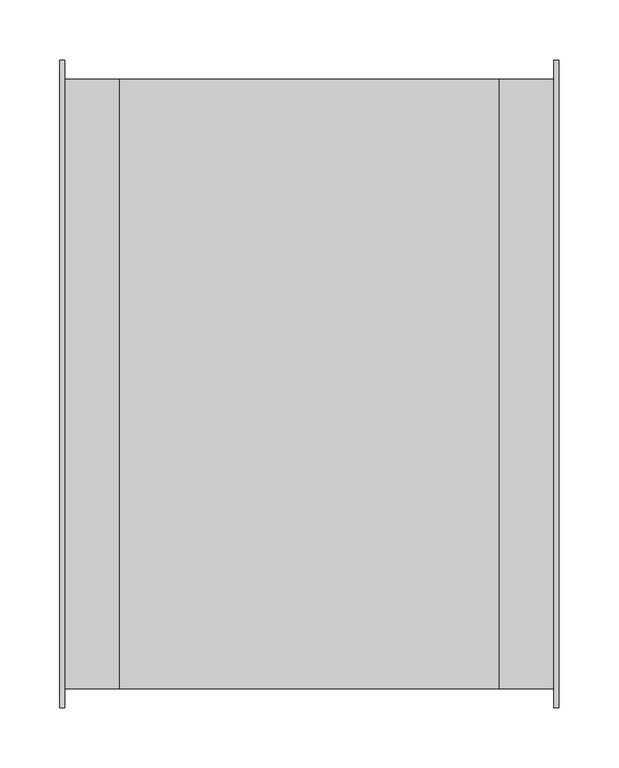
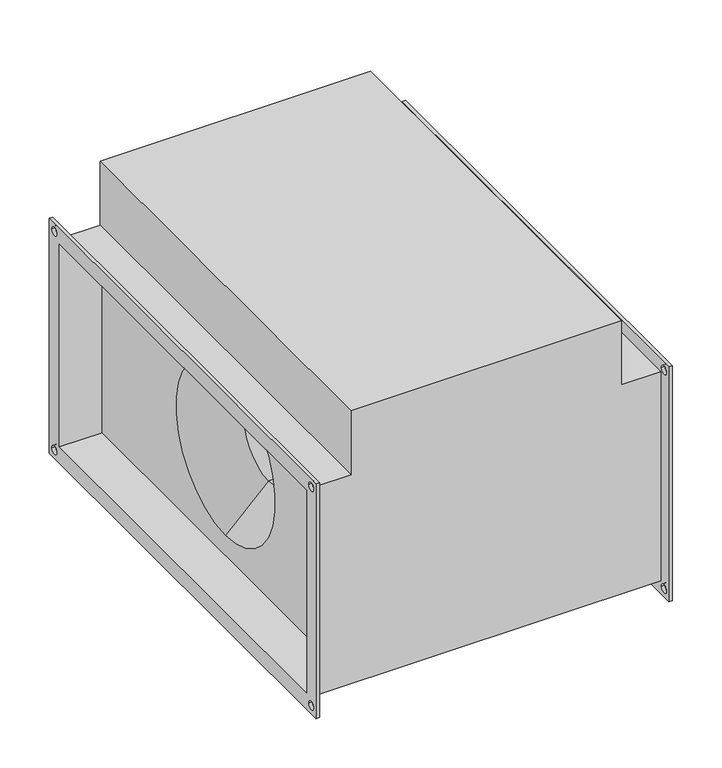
"""IFC4 building model written with IfcOpenShell, lengths in millimetres: proxy geometry, СВ_Вентилятор_КанальныйПрямоугольный_200-1000_SVPS : SVPS-500x250/20.2D."""

from ifc_helpers import new_model, si_unit, frame, origin, place, context, project, spatial, polyline, circle_curve, source, transform, mapped, element, save
from ifc_brep_helpers import plane_surface, revolved_surface, advanced_brep


def mechanical_equipment_00d14a69(model_context):
    return source(origin(), model_context, "Body", "AdvancedBrep", [
        advanced_brep(
        [(-204.0, -254.0, 129.0), (-158.0, -254.0, 129.0), (-158.0, 254.0, 129.0), (-204.0, 254.0, 129.0), (158.0, 254.0, 208.0), (158.0, -254.0, 208.0), (158.0, -254.0, 129.0), (158.0, 254.0, 129.0), (158.0, 250.0, -125.0), (158.0, 250.0, 125.0), (158.0, -250.0, 125.0), (158.0, -250.0, -125.0), (158.0, 0.0, 100.0), (158.0, 0.0, -100.0), (-158.0, 250.0, 125.0), (-158.0, 250.0, -125.0), (-158.0, -250.0, -125.0), (-158.0, -250.0, 125.0), (-158.0, 0.0, -100.0), (-158.0, 0.0, 100.0), (-158.0, -254.0, 208.0), (-158.0, 254.0, 208.0), (-204.0, -254.0, -129.0), (204.0, -254.0, -129.0), (204.0, -254.0, 129.0), (-204.0, 254.0, -129.0), (204.0, 254.0, -129.0), (204.0, 254.0, 129.0), (108.0, 0.0, -50.0), (108.0, 0.0, 50.0), (-108.0, 0.0, 50.0), (-108.0, 0.0, -50.0), (-208.0, -270.0, 145.0), (-208.0, 270.0, 145.0), (-208.0, 270.0, -145.0), (-208.0, -270.0, -145.0), (-208.0, -250.0, 125.0), (-208.0, -250.0, -125.0), (-208.0, 250.0, -125.0), (-208.0, 250.0, 125.0), (-208.0, 255.0, 135.0), (-208.0, 265.0, 135.0), (-208.0, -265.0, 135.0), (-208.0, -255.0, 135.0), (-208.0, -265.0, -135.0), (-208.0, -255.0, -135.0), (-208.0, 255.0, -135.0), (-208.0, 265.0, -135.0), (-204.0, -270.0, 145.0), (-204.0, -270.0, -145.0), (-204.0, 270.0, -145.0), (-204.0, 270.0, 145.0), (-204.0, 265.0, 135.0), (-204.0, 255.0, 135.0), (-204.0, -255.0, 135.0), (-204.0, -265.0, 135.0), (-204.0, -255.0, -135.0), (-204.0, -265.0, -135.0), (-204.0, 265.0, -135.0), (-204.0, 255.0, -135.0), (204.0, 270.0, 145.0), (204.0, 270.0, -145.0), (204.0, -270.0, -145.0), (204.0, -270.0, 145.0), (204.0, 255.0, 135.0), (204.0, 265.0, 135.0), (204.0, -265.0, 135.0), (204.0, -255.0, 135.0), (204.0, -265.0, -135.0), (204.0, -255.0, -135.0), (204.0, 255.0, -135.0), (204.0, 265.0, -135.0), (208.0, 270.0, 145.0), (208.0, -270.0, 145.0), (208.0, -270.0, -145.0), (208.0, 270.0, -145.0), (208.0, 250.0, 125.0), (208.0, 250.0, -125.0), (208.0, -250.0, -125.0), (208.0, -250.0, 125.0), (208.0, 265.0, 135.0), (208.0, 255.0, 135.0), (208.0, -255.0, 135.0), (208.0, -265.0, 135.0), (208.0, -255.0, -135.0), (208.0, -265.0, -135.0), (208.0, 265.0, -135.0), (208.0, 255.0, -135.0)],
        [
            (0, 1),
            (1, 2),
            (2, 3),
            (3, 0),
            (4, 5),
            (5, 6),
            (6, 7),
            (7, 4),
            (8, 9),
            (9, 10),
            (10, 11),
            (11, 8),
            (12, 13, circle_curve(frame((158.0, 0.0, 0.0), z_axis=(-1.0, 0.0, 0.0), x_axis=(0.0, 0.0, 1.0)), 100.0)),
            (13, 12, circle_curve(frame((158.0, 0.0, 0.0), z_axis=(-1.0, 0.0, 0.0), x_axis=(0.0, 0.0, 1.0)), 100.0)),
            (14, 15),
            (15, 16),
            (16, 17),
            (17, 14),
            (18, 19, circle_curve(frame((-158.0, 0.0, 0.0), z_axis=(1.0, 0.0, 0.0), x_axis=(0.0, 0.0, 1.0)), 100.0)),
            (19, 18, circle_curve(frame((-158.0, 0.0, 0.0), z_axis=(1.0, 0.0, 0.0), x_axis=(0.0, 0.0, 1.0)), 100.0)),
            (20, 21),
            (21, 2),
            (1, 20),
            (5, 20),
            (0, 22),
            (22, 23),
            (23, 24),
            (24, 6),
            (22, 25),
            (25, 26),
            (26, 23),
            (21, 4),
            (7, 27),
            (27, 26),
            (25, 3),
            (24, 27),
            (28, 13),
            (12, 29),
            (29, 28, circle_curve(frame((108.0, 0.0, 0.0), z_axis=(-1.0, 0.0, 0.0), x_axis=(0.0, 0.0, 1.0)), 50.0)),
            (28, 29, circle_curve(frame((108.0, 0.0, 0.0), z_axis=(-1.0, 0.0, 0.0), x_axis=(0.0, 0.0, 1.0)), 50.0)),
            (29, 30),
            (30, 31, circle_curve(frame((-108.0, 0.0, 0.0), z_axis=(-1.0, 0.0, 0.0), x_axis=(0.0, 0.0, 1.0)), 50.0)),
            (31, 28),
            (31, 30, circle_curve(frame((-108.0, 0.0, 0.0), z_axis=(-1.0, 0.0, 0.0), x_axis=(0.0, 0.0, 1.0)), 50.0)),
            (30, 19),
            (18, 31),
            (32, 33),
            (33, 34),
            (34, 35),
            (35, 32),
            (36, 37),
            (37, 38),
            (38, 39),
            (39, 36),
            (40, 41, circle_curve(frame((-208.0, 260.0, 135.0), z_axis=(1.0, 0.0, 0.0), x_axis=(0.0, 1.0, 0.0)), 5.0)),
            (41, 40, circle_curve(frame((-208.0, 260.0, 135.0), z_axis=(1.0, 0.0, 0.0), x_axis=(0.0, 1.0, 0.0)), 5.0)),
            (42, 43, circle_curve(frame((-208.0, -260.0, 135.0), z_axis=(1.0, 0.0, 0.0), x_axis=(0.0, 1.0, 0.0)), 5.0)),
            (43, 42, circle_curve(frame((-208.0, -260.0, 135.0), z_axis=(1.0, 0.0, 0.0), x_axis=(0.0, 1.0, 0.0)), 5.0)),
            (44, 45, circle_curve(frame((-208.0, -260.0, -135.0), z_axis=(1.0, 0.0, 0.0), x_axis=(0.0, 1.0, 0.0)), 5.0)),
            (45, 44, circle_curve(frame((-208.0, -260.0, -135.0), z_axis=(1.0, 0.0, 0.0), x_axis=(0.0, 1.0, 0.0)), 5.0)),
            (46, 47, circle_curve(frame((-208.0, 260.0, -135.0), z_axis=(1.0, 0.0, 0.0), x_axis=(0.0, 1.0, 0.0)), 5.0)),
            (47, 46, circle_curve(frame((-208.0, 260.0, -135.0), z_axis=(1.0, 0.0, 0.0), x_axis=(0.0, 1.0, 0.0)), 5.0)),
            (48, 49),
            (49, 50),
            (50, 51),
            (51, 48),
            (52, 53, circle_curve(frame((-204.0, 260.0, 135.0), z_axis=(-1.0, 0.0, 0.0), x_axis=(0.0, 1.0, 0.0)), 5.0)),
            (53, 52, circle_curve(frame((-204.0, 260.0, 135.0), z_axis=(-1.0, 0.0, 0.0), x_axis=(0.0, 1.0, 0.0)), 5.0)),
            (54, 55, circle_curve(frame((-204.0, -260.0, 135.0), z_axis=(-1.0, 0.0, 0.0), x_axis=(0.0, 1.0, 0.0)), 5.0)),
            (55, 54, circle_curve(frame((-204.0, -260.0, 135.0), z_axis=(-1.0, 0.0, 0.0), x_axis=(0.0, 1.0, 0.0)), 5.0)),
            (56, 57, circle_curve(frame((-204.0, -260.0, -135.0), z_axis=(-1.0, 0.0, 0.0), x_axis=(0.0, 1.0, 0.0)), 5.0)),
            (57, 56, circle_curve(frame((-204.0, -260.0, -135.0), z_axis=(-1.0, 0.0, 0.0), x_axis=(0.0, 1.0, 0.0)), 5.0)),
            (58, 59, circle_curve(frame((-204.0, 260.0, -135.0), z_axis=(-1.0, 0.0, 0.0), x_axis=(0.0, 1.0, 0.0)), 5.0)),
            (59, 58, circle_curve(frame((-204.0, 260.0, -135.0), z_axis=(-1.0, 0.0, 0.0), x_axis=(0.0, 1.0, 0.0)), 5.0)),
            (35, 49),
            (48, 32),
            (34, 50),
            (33, 51),
            (60, 61),
            (61, 62),
            (62, 63),
            (63, 60),
            (64, 65, circle_curve(frame((204.0, 260.0, 135.0), z_axis=(1.0, 0.0, 0.0), x_axis=(0.0, 1.0, 0.0)), 5.0)),
            (65, 64, circle_curve(frame((204.0, 260.0, 135.0), z_axis=(1.0, 0.0, 0.0), x_axis=(0.0, 1.0, 0.0)), 5.0)),
            (66, 67, circle_curve(frame((204.0, -260.0, 135.0), z_axis=(1.0, 0.0, 0.0), x_axis=(0.0, 1.0, 0.0)), 5.0)),
            (67, 66, circle_curve(frame((204.0, -260.0, 135.0), z_axis=(1.0, 0.0, 0.0), x_axis=(0.0, 1.0, 0.0)), 5.0)),
            (68, 69, circle_curve(frame((204.0, -260.0, -135.0), z_axis=(1.0, 0.0, 0.0), x_axis=(0.0, 1.0, 0.0)), 5.0)),
            (69, 68, circle_curve(frame((204.0, -260.0, -135.0), z_axis=(1.0, 0.0, 0.0), x_axis=(0.0, 1.0, 0.0)), 5.0)),
            (70, 71, circle_curve(frame((204.0, 260.0, -135.0), z_axis=(1.0, 0.0, 0.0), x_axis=(0.0, 1.0, 0.0)), 5.0)),
            (71, 70, circle_curve(frame((204.0, 260.0, -135.0), z_axis=(1.0, 0.0, 0.0), x_axis=(0.0, 1.0, 0.0)), 5.0)),
            (72, 73),
            (73, 74),
            (74, 75),
            (75, 72),
            (76, 77),
            (77, 78),
            (78, 79),
            (79, 76),
            (80, 81, circle_curve(frame((208.0, 260.0, 135.0), z_axis=(-1.0, 0.0, 0.0), x_axis=(0.0, 1.0, 0.0)), 5.0)),
            (81, 80, circle_curve(frame((208.0, 260.0, 135.0), z_axis=(-1.0, 0.0, 0.0), x_axis=(0.0, 1.0, 0.0)), 5.0)),
            (82, 83, circle_curve(frame((208.0, -260.0, 135.0), z_axis=(-1.0, 0.0, 0.0), x_axis=(0.0, 1.0, 0.0)), 5.0)),
            (83, 82, circle_curve(frame((208.0, -260.0, 135.0), z_axis=(-1.0, 0.0, 0.0), x_axis=(0.0, 1.0, 0.0)), 5.0)),
            (84, 85, circle_curve(frame((208.0, -260.0, -135.0), z_axis=(-1.0, 0.0, 0.0), x_axis=(0.0, 1.0, 0.0)), 5.0)),
            (85, 84, circle_curve(frame((208.0, -260.0, -135.0), z_axis=(-1.0, 0.0, 0.0), x_axis=(0.0, 1.0, 0.0)), 5.0)),
            (86, 87, circle_curve(frame((208.0, 260.0, -135.0), z_axis=(-1.0, 0.0, 0.0), x_axis=(0.0, 1.0, 0.0)), 5.0)),
            (87, 86, circle_curve(frame((208.0, 260.0, -135.0), z_axis=(-1.0, 0.0, 0.0), x_axis=(0.0, 1.0, 0.0)), 5.0)),
            (63, 73),
            (72, 60),
            (62, 74),
            (61, 75),
            (39, 14),
            (17, 36),
            (38, 15),
            (37, 16),
            (76, 9),
            (8, 77),
            (11, 78),
            (10, 79),
            (40, 53),
            (52, 41),
            (64, 81),
            (80, 65),
            (42, 55),
            (54, 43),
            (66, 83),
            (82, 67),
            (44, 57),
            (56, 45),
            (68, 85),
            (84, 69),
            (46, 59),
            (58, 47),
            (70, 87),
            (86, 71),
        ],
        [
            plane_surface(frame((-158.0, 254.0, 129.0), z_axis=(0.0, 0.0, 1.0), x_axis=(-1.0, 0.0, 0.0))),
            plane_surface(frame((158.0, -254.0, 208.0), z_axis=(1.0, 0.0, 0.0), x_axis=(0.0, 0.0, -1.0))),
            plane_surface(frame((-158.0, -254.0, 208.0), z_axis=(-1.0, 0.0, 0.0), x_axis=(0.0, 0.0, 1.0))),
            plane_surface(frame((158.0, -254.0, 208.0), z_axis=(0.0, -1.0, 0.0), x_axis=(-1.0, 0.0, 0.0))),
            plane_surface(frame((158.0, -254.0, -129.0), z_axis=(0.0, 0.0, -1.0), x_axis=(-1.0, 0.0, 0.0))),
            plane_surface(frame((158.0, 254.0, -129.0), z_axis=(0.0, 1.0, 0.0), x_axis=(-1.0, 0.0, 0.0))),
            plane_surface(frame((158.0, 254.0, 208.0), z_axis=(0.0, 0.0, 1.0), x_axis=(-1.0, 0.0, 0.0))),
            plane_surface(frame((204.0, 254.0, 129.0), z_axis=(0.0, 0.0, 1.0), x_axis=(-1.0, 0.0, 0.0))),
            revolved_surface(polyline([(108.0, 0.0, 50.0), (158.0, 0.0, 100.0)]), (-595.0617897, 0.0, 0.0), (-1.0, 0.0, 0.0)),
            revolved_surface(polyline([(-108.0, 0.0, 50.0), (108.0, 0.0, 50.0)]), (-595.0617897, 0.0, 0.0), (-1.0, 0.0, 0.0)),
            revolved_surface(polyline([(-158.0, 0.0, 100.0), (-108.0, 0.0, 50.0)]), (-595.0617897, 0.0, 0.0), (-1.0, 0.0, 0.0)),
            plane_surface(frame((-208.0, -270.0, 145.0), z_axis=(-1.0, 0.0, 0.0), x_axis=(0.0, 0.0, 1.0))),
            plane_surface(frame((-204.0, -270.0, 145.0), z_axis=(1.0, 0.0, 0.0), x_axis=(0.0, 0.0, -1.0))),
            plane_surface(frame((-204.0, -270.0, 145.0), z_axis=(0.0, -1.0, 0.0), x_axis=(-1.0, 0.0, 0.0))),
            plane_surface(frame((-204.0, -270.0, -145.0), z_axis=(0.0, 0.0, -1.0), x_axis=(-1.0, 0.0, 0.0))),
            plane_surface(frame((-204.0, 270.0, -145.0), z_axis=(0.0, 1.0, 0.0), x_axis=(-1.0, 0.0, 0.0))),
            plane_surface(frame((-204.0, 270.0, 145.0), z_axis=(0.0, 0.0, 1.0), x_axis=(-1.0, 0.0, 0.0))),
            plane_surface(frame((204.0, 250.0, -125.0), z_axis=(-1.0, 0.0, 0.0), x_axis=(0.0, 0.0, 1.0))),
            plane_surface(frame((208.0, 250.0, -125.0), z_axis=(1.0, 0.0, 0.0), x_axis=(0.0, 0.0, -1.0))),
            plane_surface(frame((208.0, 270.0, 145.0), z_axis=(0.0, 0.0, 1.0), x_axis=(-1.0, 0.0, 0.0))),
            plane_surface(frame((208.0, -270.0, 145.0), z_axis=(0.0, -1.0, 0.0), x_axis=(-1.0, 0.0, 0.0))),
            plane_surface(frame((208.0, -270.0, -145.0), z_axis=(0.0, 0.0, -1.0), x_axis=(-1.0, 0.0, 0.0))),
            plane_surface(frame((208.0, 270.0, -145.0), z_axis=(0.0, 1.0, 0.0), x_axis=(-1.0, 0.0, 0.0))),
            plane_surface(frame((-204.0, -250.0, 125.0), z_axis=(0.0, 0.0, -1.0), x_axis=(-1.0, 0.0, 0.0))),
            plane_surface(frame((-204.0, 250.0, 125.0), z_axis=(0.0, -1.0, 0.0), x_axis=(-1.0, 0.0, 0.0))),
            plane_surface(frame((-204.0, 250.0, -125.0), z_axis=(0.0, 0.0, 1.0), x_axis=(-1.0, 0.0, 0.0))),
            plane_surface(frame((-204.0, -250.0, -125.0), z_axis=(0.0, 1.0, 0.0), x_axis=(-1.0, 0.0, 0.0))),
            plane_surface(frame((208.0, 250.0, 125.0), z_axis=(0.0, -1.0, 0.0), x_axis=(-1.0, 0.0, 0.0))),
            plane_surface(frame((208.0, 250.0, -125.0), z_axis=(0.0, 0.0, 1.0), x_axis=(-1.0, 0.0, 0.0))),
            plane_surface(frame((208.0, -250.0, -125.0), z_axis=(0.0, 1.0, 0.0), x_axis=(-1.0, 0.0, 0.0))),
            plane_surface(frame((208.0, -250.0, 125.0), z_axis=(0.0, 0.0, -1.0), x_axis=(-1.0, 0.0, 0.0))),
            revolved_surface(polyline([(-204.0, 265.0, 135.0), (-208.0, 265.0, 135.0)]), (-208.0, 260.0, 135.0), (1.0, 0.0, 0.0)),
            revolved_surface(polyline([(208.0, 265.0, 135.0), (204.0, 265.0, 135.0)]), (-208.0, 260.0, 135.0), (1.0, 0.0, 0.0)),
            revolved_surface(polyline([(-204.0, -255.0, 135.0), (-208.0, -255.0, 135.0)]), (0.0, -260.0, 135.0), (1.0, 0.0, 0.0)),
            revolved_surface(polyline([(208.0, -255.0, 135.0), (204.0, -255.0, 135.0)]), (0.0, -260.0, 135.0), (1.0, 0.0, 0.0)),
            revolved_surface(polyline([(-204.0, -255.0, -135.0), (-208.0, -255.0, -135.0)]), (0.0, -260.0, -135.0), (1.0, 0.0, 0.0)),
            revolved_surface(polyline([(208.0, -255.0, -135.0), (204.0, -255.0, -135.0)]), (0.0, -260.0, -135.0), (1.0, 0.0, 0.0)),
            revolved_surface(polyline([(-204.0, 265.0, -135.0), (-208.0, 265.0, -135.0)]), (0.0, 260.0, -135.0), (1.0, 0.0, 0.0)),
            revolved_surface(polyline([(208.0, 265.0, -135.0), (204.0, 265.0, -135.0)]), (0.0, 260.0, -135.0), (1.0, 0.0, 0.0)),
        ],
        [
            (0, [[1, 2, 3, 4]]),
            (1, [[5, 6, 7, 8]]),
            (1, [[9, 10, 11, 12], [13, 14]]),
            (2, [[15, 16, 17, 18], [19, 20]]),
            (2, [[21, 22, -2, 23]]),
            (3, [[24, -23, -1, 25, 26, 27, 28, -6]]),
            (4, [[-26, 29, 30, 31]]),
            (5, [[32, -8, 33, 34, -30, 35, -3, -22]]),
            (6, [[-5, -32, -21, -24]]),
            (7, [[-28, 36, -33, -7]]),
            (8, [[37, -13, 38, 39]]),
            (8, [[-37, 40, -38, -14]]),
            (9, [[-39, 41, 42, 43]]),
            (9, [[-40, -43, 44, -41]]),
            (10, [[-42, 45, -19, 46]]),
            (10, [[-44, -46, -20, -45]]),
            (11, [[47, 48, 49, 50], [51, 52, 53, 54], [55, 56], [57, 58], [59, 60], [61, 62]]),
            (12, [[63, 64, 65, 66], [-25, -4, -35, -29], [67, 68], [69, 70], [71, 72], [73, 74]]),
            (13, [[-50, 75, -63, 76]]),
            (14, [[-49, 77, -64, -75]]),
            (15, [[-48, 78, -65, -77]]),
            (16, [[-47, -76, -66, -78]]),
            (17, [[79, 80, 81, 82], [-27, -31, -34, -36], [83, 84], [85, 86], [87, 88], [89, 90]]),
            (18, [[91, 92, 93, 94], [95, 96, 97, 98], [99, 100], [101, 102], [103, 104], [105, 106]]),
            (19, [[-82, 107, -91, 108]]),
            (20, [[-81, 109, -92, -107]]),
            (21, [[-80, 110, -93, -109]]),
            (22, [[-79, -108, -94, -110]]),
            (23, [[-54, 111, -18, 112]]),
            (24, [[-53, 113, -15, -111]]),
            (25, [[-52, 114, -16, -113]]),
            (26, [[-51, -112, -17, -114]]),
            (27, [[-95, 115, -9, 116]]),
            (28, [[-96, -116, -12, 117]]),
            (29, [[-97, -117, -11, 118]]),
            (30, [[-115, -98, -118, -10]]),
            (31, [[119, -67, 120, -55]]),
            (32, [[121, -99, 122, -83]]),
            (31, [[-119, -56, -120, -68]]),
            (32, [[-121, -84, -122, -100]]),
            (33, [[123, -69, 124, -57]]),
            (34, [[125, -101, 126, -85]]),
            (33, [[-123, -58, -124, -70]]),
            (34, [[-125, -86, -126, -102]]),
            (35, [[127, -71, 128, -59]]),
            (36, [[129, -103, 130, -87]]),
            (35, [[-127, -60, -128, -72]]),
            (36, [[-129, -88, -130, -104]]),
            (37, [[131, -73, 132, -61]]),
            (38, [[133, -105, 134, -89]]),
            (37, [[-131, -62, -132, -74]]),
            (38, [[-133, -90, -134, -106]]),
        ],
    ),
    ])


if __name__ == "__main__":
    model = new_model("IFC4")
    model_context = context("Model", 3, world=origin())
    ifc_project = project(units=[si_unit("LENGTHUNIT", "METRE", prefix="MILLI")], contexts=[model_context])
    site = spatial("IfcSite", under=ifc_project)
    building = spatial("IfcBuilding", under=site)
    placement = place(None, origin())
    mechanical_equipment_shape = mechanical_equipment_00d14a69(model_context)
    element("IfcBuildingElementProxy", 1, Name="СВ_Вентилятор_КанальныйПрямоугольный_200-1000_SVPS : SVPS-500x250/20.2D", ObjectType="СВ_Вентилятор_КанальныйПрямоугольный_200-1000_SVPS : SVPS-500x250/20.2D", at=placement, inside=building, context=model_context, shape_type="MappedRepresentation", body=[
        mapped(mechanical_equipment_shape, transform((0.0, 0.0, 0.0), x_axis=(1.0, 0.0, 0.0), y_axis=(0.0, 1.0, 0.0), z_axis=(0.0, 0.0, 1.0))),
    ])
    save(model, "model.ifc")
